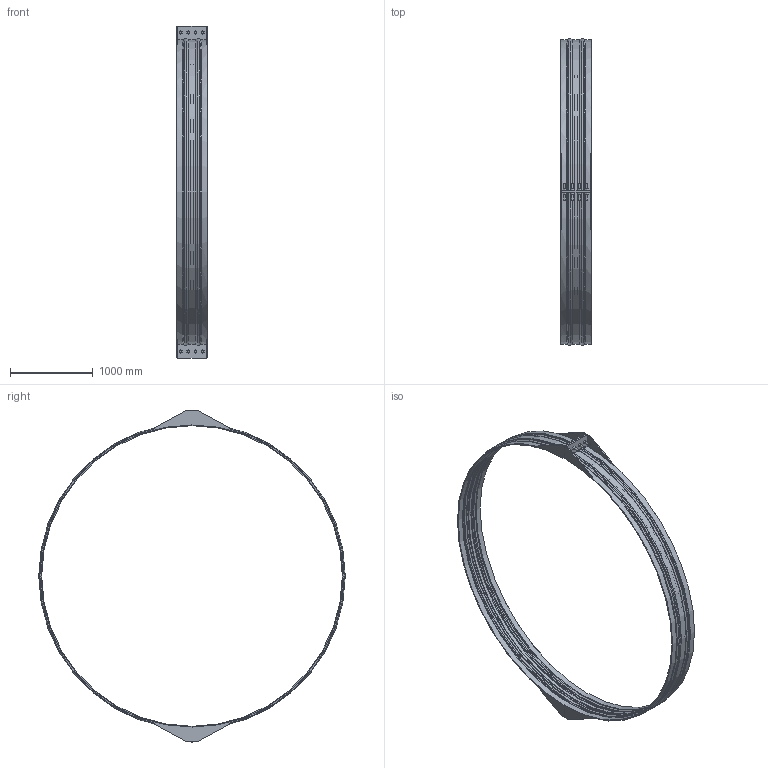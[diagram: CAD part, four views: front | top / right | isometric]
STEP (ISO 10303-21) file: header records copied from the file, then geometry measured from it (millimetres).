
FILE_DESCRIPTION(/* description */ ('VIC RESTRAINED COUPLING STYLE 233 (FLEX) (BRD)','CAx-IF Rec.Pracs.---Representation and Presentation of Product Manufacturing Information (PMI)---4.0---2014-10-13'),/* implementation_level */ '2;1');
FILE_NAME(/* name */ 'C:\Users\Vjadhav\Desktop\CAD for Inventor\Test for STEP\Vivek\Adsk_Inventor_Bolted Sleeve_iParts\STEP\Victaulic_VBSP_Coupling Flexible Restrained_Style 233 (BRD)\Victaulic_VBSP_Coupling Flexible Restrained_Style 233 (BRD)_75psi_144 (3600).stp',/* time_stamp */ '2020-09-24T12:32:19+05:00',/* author */ ('Vjadhav'),/* organization */ ('Victaulic'),/* preprocessor_version */ 'ST-DEVELOPER v17.2',/* originating_system */ 'Autodesk Inventor 2019',/* authorisation */ '');
FILE_SCHEMA (('AP242_MANAGED_MODEL_BASED_3D_ENGINEERING_MIM_LF { 1 0 10303 442 1 1 4 }'));
Length unit declared in the file: inch
Products named in the file (1): Style_233_Type_2_75psi-144.0
Bounding box: 374.65 x 3709.63 x 4019.55 mm (x, y, z)
Volume: 68022985.1 mm3; surface area: 10443401.9 mm2
Topology: 1 solids, 1 shells, 239 faces, 625 edges, 422 vertices
Faces by surface type: plane 166, cylinder 43, torus 18, cone 12
Full cylindrical faces by diameter (mm): 25.4 x16, 3638.55 x1, 3657.6 x2, 3663.95 x2
Entity records: 7896 total; most frequent: CARTESIAN_POINT 1496, DIRECTION 1259, ORIENTED_EDGE 1250, EDGE_CURVE 625, LINE 449, VECTOR 449, VERTEX_POINT 422, AXIS2_PLACEMENT_3D 405
